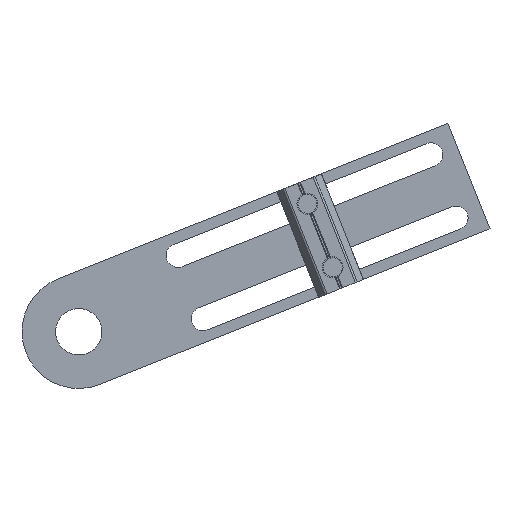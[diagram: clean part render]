
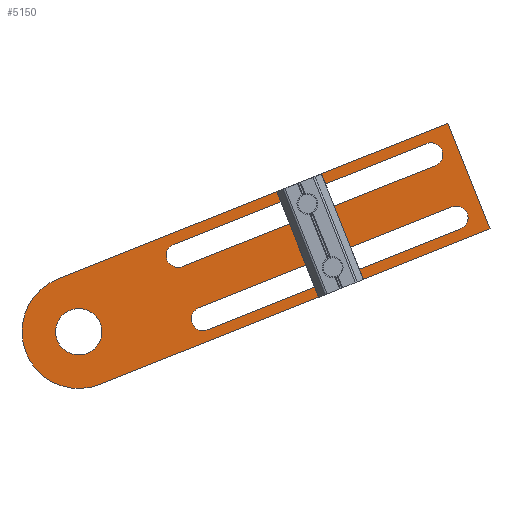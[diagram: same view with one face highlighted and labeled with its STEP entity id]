
A CAD part, front view. The second image highlights one B-rep face of the part: STEP entity #5150.
In plain terms, the highlighted planar face has unit normal (0, -1, 0) as drawn and (0, 0, -1) by its records, which use the part's own axes.
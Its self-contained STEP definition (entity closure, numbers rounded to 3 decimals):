
#8 = EDGE_CURVE ( 'NONE', #7742, #4139, #344, .T. ) ;
#15 = LINE ( 'NONE', #2563, #453 ) ;
#49 = VERTEX_POINT ( 'NONE', #4440 ) ;
#165 = VECTOR ( 'NONE', #6181, 1000. ) ;
#272 = CARTESIAN_POINT ( 'NONE',  ( 7.5, -46.5, 0. ) ) ;
#294 = CARTESIAN_POINT ( 'NONE',  ( -10.1, -46.5, 0. ) ) ;
#335 = CIRCLE ( 'NONE', #5635, 2.6 ) ;
#344 = CIRCLE ( 'NONE', #5870, 2.6 ) ;
#367 = FACE_BOUND ( 'NONE', #3583, .T. ) ;
#453 = VECTOR ( 'NONE', #536, 1000. ) ;
#480 = AXIS2_PLACEMENT_3D ( 'NONE', #6920, #2001, #4609 ) ;
#536 = DIRECTION ( 'NONE',  ( 0., 1., 0. ) ) ;
#590 = EDGE_CURVE ( 'NONE', #4355, #2872, #4835, .T. ) ;
#637 = LINE ( 'NONE', #7661, #846 ) ;
#643 = EDGE_CURVE ( 'NONE', #7361, #3335, #335, .T. ) ;
#690 = VERTEX_POINT ( 'NONE', #6545 ) ;
#692 = CARTESIAN_POINT ( 'NONE',  ( 10.1, -46.5, 0. ) ) ;
#799 = ORIENTED_EDGE ( 'NONE', *, *, #1269, .F. ) ;
#802 = CARTESIAN_POINT ( 'NONE',  ( 7.5, 13.5, 0. ) ) ;
#846 = VECTOR ( 'NONE', #7688, 1000. ) ;
#870 = DIRECTION ( 'NONE',  ( 0., 0., 1. ) ) ;
#974 = DIRECTION ( 'NONE',  ( 1., 0., 0. ) ) ;
#1007 = EDGE_CURVE ( 'NONE', #7053, #3335, #4931, .T. ) ;
#1170 = CARTESIAN_POINT ( 'NONE',  ( 12.5, 40., 0. ) ) ;
#1203 = CIRCLE ( 'NONE', #8145, 12.5 ) ;
#1269 = EDGE_CURVE ( 'NONE', #8830, #2872, #1203, .T. ) ;
#1307 = CARTESIAN_POINT ( 'NONE',  ( -4.9, 13.5, 0. ) ) ;
#1504 = CARTESIAN_POINT ( 'NONE',  ( -10.1, 13.5, 0. ) ) ;
#1597 = DIRECTION ( 'NONE',  ( 1., 0., 0. ) ) ;
#1658 = CARTESIAN_POINT ( 'NONE',  ( 0., 40., 0. ) ) ;
#1771 = ORIENTED_EDGE ( 'NONE', *, *, #2100, .T. ) ;
#1779 = FACE_OUTER_BOUND ( 'NONE', #7174, .T. ) ;
#1859 = CARTESIAN_POINT ( 'NONE',  ( -4.9, 13.5, 0. ) ) ;
#1878 = AXIS2_PLACEMENT_3D ( 'NONE', #272, #2316, #974 ) ;
#1889 = CARTESIAN_POINT ( 'NONE',  ( -12.5, 40., 0. ) ) ;
#2001 = DIRECTION ( 'NONE',  ( 0., 0., 1. ) ) ;
#2100 = EDGE_CURVE ( 'NONE', #5749, #7742, #7437, .T. ) ;
#2316 = DIRECTION ( 'NONE',  ( 0., 0., 1. ) ) ;
#2349 = ORIENTED_EDGE ( 'NONE', *, *, #3713, .T. ) ;
#2406 = CARTESIAN_POINT ( 'NONE',  ( -7.5, -46.5, 0. ) ) ;
#2482 = VECTOR ( 'NONE', #7057, 1000. ) ;
#2511 = VERTEX_POINT ( 'NONE', #8411 ) ;
#2523 = EDGE_CURVE ( 'NONE', #49, #8386, #2703, .T. ) ;
#2544 = EDGE_LOOP ( 'NONE', ( #5586, #4870, #3730, #4517 ) ) ;
#2563 = CARTESIAN_POINT ( 'NONE',  ( 12.5, 0., 0. ) ) ;
#2670 = DIRECTION ( 'NONE',  ( 0., -1., 0. ) ) ;
#2703 = CIRCLE ( 'NONE', #8545, 5.1 ) ;
#2872 = VERTEX_POINT ( 'NONE', #1889 ) ;
#3059 = VECTOR ( 'NONE', #2670, 1000. ) ;
#3089 = VERTEX_POINT ( 'NONE', #1504 ) ;
#3181 = AXIS2_PLACEMENT_3D ( 'NONE', #3438, #4816, #4135 ) ;
#3241 = ORIENTED_EDGE ( 'NONE', *, *, #8, .T. ) ;
#3289 = EDGE_CURVE ( 'NONE', #8386, #49, #9084, .T. ) ;
#3335 = VERTEX_POINT ( 'NONE', #6956 ) ;
#3369 = CARTESIAN_POINT ( 'NONE',  ( 0., -52.5, 0. ) ) ;
#3438 = CARTESIAN_POINT ( 'NONE',  ( 0., 0., 0. ) ) ;
#3508 = EDGE_CURVE ( 'NONE', #2511, #5749, #4439, .T. ) ;
#3510 = CARTESIAN_POINT ( 'NONE',  ( 5.1, 40., 0. ) ) ;
#3525 = DIRECTION ( 'NONE',  ( 0., 0., 1. ) ) ;
#3583 = EDGE_LOOP ( 'NONE', ( #4846, #6503, #1771, #3241 ) ) ;
#3713 = EDGE_CURVE ( 'NONE', #690, #4355, #3763, .T. ) ;
#3730 = ORIENTED_EDGE ( 'NONE', *, *, #8205, .T. ) ;
#3763 = LINE ( 'NONE', #3369, #165 ) ;
#3840 = AXIS2_PLACEMENT_3D ( 'NONE', #6544, #870, #8650 ) ;
#3870 = EDGE_LOOP ( 'NONE', ( #6941, #4036 ) ) ;
#3890 = LINE ( 'NONE', #5354, #4225 ) ;
#4036 = ORIENTED_EDGE ( 'NONE', *, *, #2523, .T. ) ;
#4108 = PLANE ( 'NONE',  #3181 ) ;
#4135 = DIRECTION ( 'NONE',  ( 1., 0., 0. ) ) ;
#4139 = VERTEX_POINT ( 'NONE', #4992 ) ;
#4225 = VECTOR ( 'NONE', #6792, 1000. ) ;
#4355 = VERTEX_POINT ( 'NONE', #7454 ) ;
#4439 = CIRCLE ( 'NONE', #1878, 2.6 ) ;
#4440 = CARTESIAN_POINT ( 'NONE',  ( -5.1, 40., 0. ) ) ;
#4517 = ORIENTED_EDGE ( 'NONE', *, *, #643, .T. ) ;
#4589 = DIRECTION ( 'NONE',  ( 0., 0., 1. ) ) ;
#4609 = DIRECTION ( 'NONE',  ( 1., 0., 0. ) ) ;
#4753 = FACE_BOUND ( 'NONE', #3870, .T. ) ;
#4816 = DIRECTION ( 'NONE',  ( 0., 0., 1. ) ) ;
#4835 = LINE ( 'NONE', #6478, #7598 ) ;
#4846 = ORIENTED_EDGE ( 'NONE', *, *, #7704, .F. ) ;
#4870 = ORIENTED_EDGE ( 'NONE', *, *, #8539, .T. ) ;
#4931 = LINE ( 'NONE', #1307, #3059 ) ;
#4992 = CARTESIAN_POINT ( 'NONE',  ( 4.9, 13.5, 0. ) ) ;
#5150 = ADVANCED_FACE ( 'NONE', ( #4753, #8827, #367, #1779 ), #4108, .F. ) ;
#5354 = CARTESIAN_POINT ( 'NONE',  ( -10.1, 13.5, 0. ) ) ;
#5518 = CARTESIAN_POINT ( 'NONE',  ( 10.1, 13.5, 0. ) ) ;
#5586 = ORIENTED_EDGE ( 'NONE', *, *, #1007, .F. ) ;
#5635 = AXIS2_PLACEMENT_3D ( 'NONE', #2406, #4589, #7269 ) ;
#5685 = DIRECTION ( 'NONE',  ( 0., 0., 1. ) ) ;
#5749 = VERTEX_POINT ( 'NONE', #692 ) ;
#5796 = DIRECTION ( 'NONE',  ( 0., 1., 0. ) ) ;
#5870 = AXIS2_PLACEMENT_3D ( 'NONE', #802, #5685, #6490 ) ;
#6181 = DIRECTION ( 'NONE',  ( -1., 0., 0. ) ) ;
#6212 = EDGE_CURVE ( 'NONE', #690, #8830, #15, .T. ) ;
#6339 = CARTESIAN_POINT ( 'NONE',  ( 0., 40., 0. ) ) ;
#6478 = CARTESIAN_POINT ( 'NONE',  ( -12.5, 0., 0. ) ) ;
#6490 = DIRECTION ( 'NONE',  ( 1., 0., 0. ) ) ;
#6503 = ORIENTED_EDGE ( 'NONE', *, *, #3508, .T. ) ;
#6544 = CARTESIAN_POINT ( 'NONE',  ( -7.5, 13.5, 0. ) ) ;
#6545 = CARTESIAN_POINT ( 'NONE',  ( 12.5, -52.5, 0. ) ) ;
#6568 = DIRECTION ( 'NONE',  ( 0., 0., 1. ) ) ;
#6792 = DIRECTION ( 'NONE',  ( 0., -1., 0. ) ) ;
#6920 = CARTESIAN_POINT ( 'NONE',  ( 0., 40., 0. ) ) ;
#6941 = ORIENTED_EDGE ( 'NONE', *, *, #3289, .T. ) ;
#6956 = CARTESIAN_POINT ( 'NONE',  ( -4.9, -46.5, 0. ) ) ;
#7053 = VERTEX_POINT ( 'NONE', #1859 ) ;
#7057 = DIRECTION ( 'NONE',  ( 0., 1., 0. ) ) ;
#7151 = ORIENTED_EDGE ( 'NONE', *, *, #6212, .F. ) ;
#7174 = EDGE_LOOP ( 'NONE', ( #7151, #2349, #8690, #799 ) ) ;
#7269 = DIRECTION ( 'NONE',  ( 1., 0., 0. ) ) ;
#7308 = CIRCLE ( 'NONE', #3840, 2.6 ) ;
#7361 = VERTEX_POINT ( 'NONE', #294 ) ;
#7437 = LINE ( 'NONE', #7765, #2482 ) ;
#7454 = CARTESIAN_POINT ( 'NONE',  ( -12.5, -52.5, 0. ) ) ;
#7598 = VECTOR ( 'NONE', #5796, 1000. ) ;
#7661 = CARTESIAN_POINT ( 'NONE',  ( 4.9, -46.5, 0. ) ) ;
#7688 = DIRECTION ( 'NONE',  ( 0., 1., 0. ) ) ;
#7704 = EDGE_CURVE ( 'NONE', #2511, #4139, #637, .T. ) ;
#7742 = VERTEX_POINT ( 'NONE', #5518 ) ;
#7765 = CARTESIAN_POINT ( 'NONE',  ( 10.1, -46.5, 0. ) ) ;
#7865 = DIRECTION ( 'NONE',  ( 1., 0., 0. ) ) ;
#8145 = AXIS2_PLACEMENT_3D ( 'NONE', #1658, #6568, #1597 ) ;
#8205 = EDGE_CURVE ( 'NONE', #3089, #7361, #3890, .T. ) ;
#8386 = VERTEX_POINT ( 'NONE', #3510 ) ;
#8411 = CARTESIAN_POINT ( 'NONE',  ( 4.9, -46.5, 0. ) ) ;
#8539 = EDGE_CURVE ( 'NONE', #7053, #3089, #7308, .T. ) ;
#8545 = AXIS2_PLACEMENT_3D ( 'NONE', #6339, #3525, #7865 ) ;
#8650 = DIRECTION ( 'NONE',  ( 1., 0., 0. ) ) ;
#8690 = ORIENTED_EDGE ( 'NONE', *, *, #590, .T. ) ;
#8827 = FACE_BOUND ( 'NONE', #2544, .T. ) ;
#8830 = VERTEX_POINT ( 'NONE', #1170 ) ;
#9084 = CIRCLE ( 'NONE', #480, 5.1 ) ;
